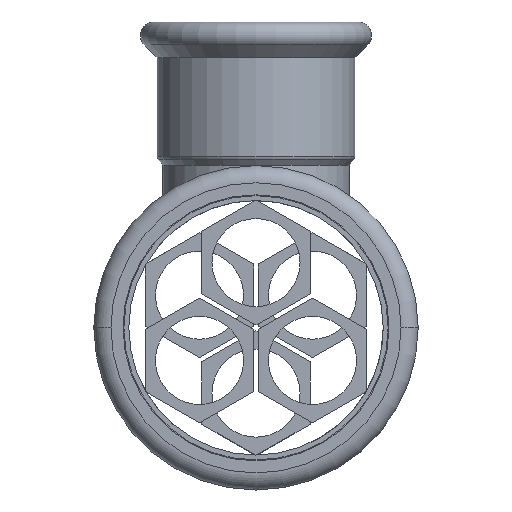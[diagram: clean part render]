
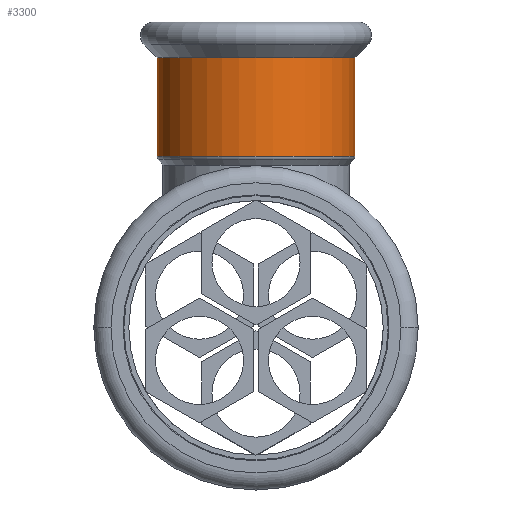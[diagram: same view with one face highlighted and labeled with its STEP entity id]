
A CAD part, left-side view. The second image highlights one B-rep face of the part: STEP entity #3300.
In plain terms, the highlighted cylindrical face has radius 40.45 mm (diameter 80.9 mm), a partial arc.
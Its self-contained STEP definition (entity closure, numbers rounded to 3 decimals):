
#2890=CARTESIAN_POINT('',(36.969,0.,0.));
#2900=DIRECTION('',(-1.,0.,0.));
#2910=DIRECTION('',(0.,1.,0.));
#2920=AXIS2_PLACEMENT_3D('',#2890,#2900,#2910);
#2930=CYLINDRICAL_SURFACE('',#2920,40.45);
#2940=CARTESIAN_POINT('',(36.969,40.45,0.));
#2950=DIRECTION('',(-1.,0.,0.));
#2960=VECTOR('',#2950,1.);
#2970=LINE('',#2940,#2960);
#2980=CARTESIAN_POINT('',(48.422,40.45,0.));
#2990=VERTEX_POINT('',#2980);
#3000=CARTESIAN_POINT('',(8.088,40.45,0.));
#3010=VERTEX_POINT('',#3000);
#3020=EDGE_CURVE('',#2990,#3010,#2970,.T.);
#3030=ORIENTED_EDGE('',*,*,#3020,.T.);
#3040=CARTESIAN_POINT('',(48.422,0.,0.));
#3050=DIRECTION('',(1.,0.,0.));
#3060=DIRECTION('',(0.,1.,0.));
#3070=AXIS2_PLACEMENT_3D('',#3040,#3050,#3060);
#3080=CIRCLE('',#3070,40.45);
#3090=CARTESIAN_POINT('',(48.422,-40.45,0.))
;
#3100=VERTEX_POINT('',#3090);
#3110=EDGE_CURVE('',#2990,#3100,#3080,.T.);
#3120=ORIENTED_EDGE('',*,*,#3110,.F.);
#3130=CARTESIAN_POINT('',(36.969,-40.45,0.))
;
#3140=DIRECTION('',(-1.,0.,0.));
#3150=VECTOR('',#3140,1.);
#3160=LINE('',#3130,#3150);
#3170=CARTESIAN_POINT('',(8.088,-40.45,0.));
#3180=VERTEX_POINT('',#3170);
#3190=EDGE_CURVE('',#3100,#3180,#3160,.T.);
#3200=ORIENTED_EDGE('',*,*,#3190,.F.);
#3210=CARTESIAN_POINT('',(8.088,0.,0.));
#3220=DIRECTION('',(-1.,0.,0.));
#3230=DIRECTION('',(0.,1.,0.));
#3240=AXIS2_PLACEMENT_3D('',#3210,#3220,#3230);
#3250=CIRCLE('',#3240,40.45);
#3260=EDGE_CURVE('',#3180,#3010,#3250,.T.);
#3270=ORIENTED_EDGE('',*,*,#3260,.F.);
#3280=EDGE_LOOP('',(#3270,#3200,#3120,#3030));
#3290=FACE_OUTER_BOUND('',#3280,.T.);
#3300=ADVANCED_FACE('',(#3290),#2930,.T.);
